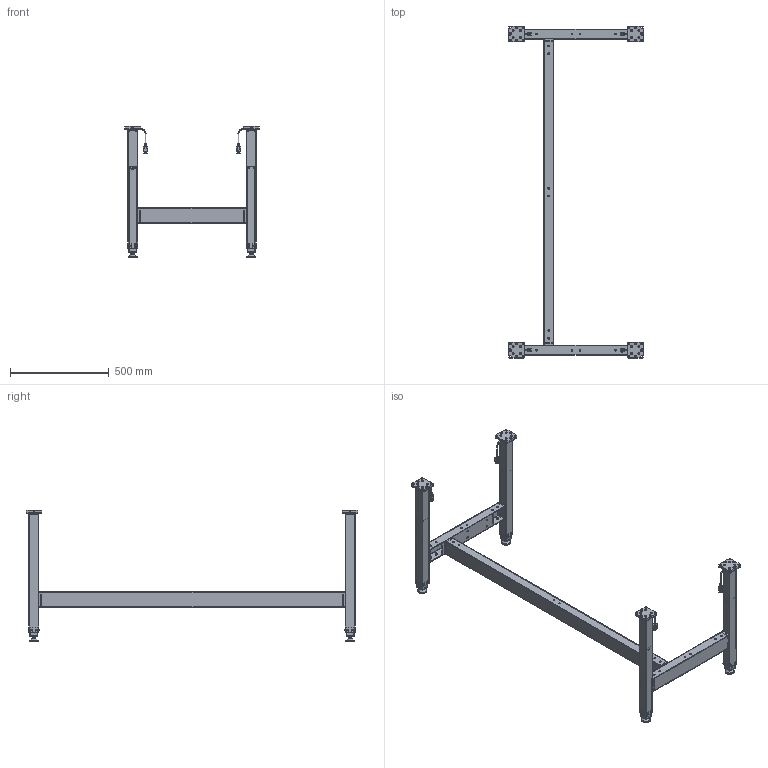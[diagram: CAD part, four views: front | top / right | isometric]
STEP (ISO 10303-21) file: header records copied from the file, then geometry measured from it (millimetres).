
FILE_DESCRIPTION(/* description */ ('Unknown'),/* implementation_level */ '2;1');
FILE_NAME(/* name */ 'Untergestell SE.3 4330 1600_00-Eingefahren',/* time_stamp */ '2022-02-03T17:17:36+01:00',/* author */ ('Unknown'),/* organization */ ('Unknown'),/* preprocessor_version */ 'ST-DEVELOPER v18.1',/* originating_system */ 'Solid Edge',/* authorisation */ 'Unknown');
FILE_SCHEMA (('AUTOMOTIVE_DESIGN {1 0 10303 214 3 1 1}'));
Length unit declared in the file: millimetre
Products named in the file (29): Untergestell SE.3 4330 1600; 908.02003_oa_0; 127.00655; 127.00658; Aussenrohr 50x50x2 bearbeitet_2018 08 15; Flanschplatte_2018 08 15; Anschweissplatte Traverse_2018 08 15; 127.00658_515_565_Kehlnaht 2_oa_1; 127.00658_515_565_Kehlnaht 2_oa_2; 127.00660; Innenrohr 40x40x2_2018 08 15; Bodenplatte_2018 0815; 128.00070; 142.00077; 142.00166; Kabel Molex; 908.02003_oa_3; 115.00150; 127.00365; 127.00055; 127.00039; 113.00006; 113.00006-ohne Mutter; Mutter M10; 908.02003_oa_6; 908.02003_oa_9; 115.00154; 127.00373; 127.00133
Assembly tree (104 placements, depth 4):
  Untergestell SE.3 4330 1600
    908.02003_oa_0
      127.00655
      127.00658
        Aussenrohr 50x50x2 bearbeitet_2018 08 15
        Flanschplatte_2018 08 15
        Anschweissplatte Traverse_2018 08 15
        127.00658_515_565_Kehlnaht 2_oa_1
        127.00658_515_565_Kehlnaht 2_oa_2
      127.00660
        Innenrohr 40x40x2_2018 08 15
        Bodenplatte_2018 0815
      128.00070  x8
      142.00077  x3
      142.00166  x4
      Kabel Molex
    908.02003_oa_3
      127.00655
      127.00658
        Aussenrohr 50x50x2 bearbeitet_2018 08 15
        Flanschplatte_2018 08 15
        Anschweissplatte Traverse_2018 08 15
        127.00658_515_565_Kehlnaht 2_oa_1
        127.00658_515_565_Kehlnaht 2_oa_2
      127.00660
        Innenrohr 40x40x2_2018 08 15
        Bodenplatte_2018 0815
      128.00070  x8
      142.00077  x3
      142.00166  x4
      Kabel Molex
    115.00150  x2
      127.00365
        127.00055
        127.00039  x2
    113.00006  x4
      113.00006-ohne Mutter
      Mutter M10
    908.02003_oa_6
      127.00655
      127.00658
        Aussenrohr 50x50x2 bearbeitet_2018 08 15
        Flanschplatte_2018 08 15
        Anschweissplatte Traverse_2018 08 15
        127.00658_515_565_Kehlnaht 2_oa_1
        127.00658_515_565_Kehlnaht 2_oa_2
      127.00660
        Innenrohr 40x40x2_2018 08 15
        Bodenplatte_2018 0815
      128.00070  x8
      142.00077  x3
      142.00166  x4
      Kabel Molex
    908.02003_oa_9
      127.00655
      127.00658
        Aussenrohr 50x50x2 bearbeitet_2018 08 15
        Flanschplatte_2018 08 15
        Anschweissplatte Traverse_2018 08 15
        127.00658_515_565_Kehlnaht 2_oa_1
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Bounding box: 680 x 1680 x 663 mm (x, y, z)
Volume: 3345071.2 mm3; surface area: 3015781.4 mm2
Topology: 141 solids, 141 shells, 4286 faces, 10972 edges, 7234 vertices
Faces by surface type: plane 2872, cylinder 894, torus 220, cone 156, bspline 144
Full cylindrical faces by diameter (mm): 4.917 x82, 5 x24, 5.5 x16, 6 x12, 6.5 x12, 6.647 x12, 6.8 x24, 8.376 x8, 8.5 x16, 9 x80, 9.5 x4, 10 x20, 13 x12, 15 x4, 19 x4, 25 x4, 29 x4, 35 x4, 39 x4, 47 x4
Entity records: 35761 total; most frequent: CARTESIAN_POINT 6731, DIRECTION 4838, ORIENTED_EDGE 4458, EDGE_CURVE 2229, AXIS2_PLACEMENT_3D 1721, VERTEX_POINT 1547, LINE 1396, VECTOR 1396
